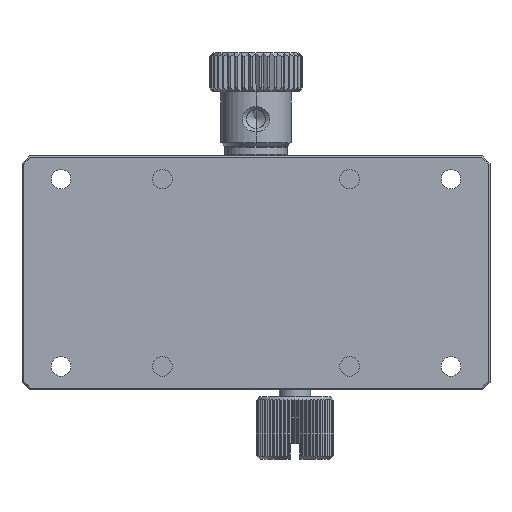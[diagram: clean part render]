
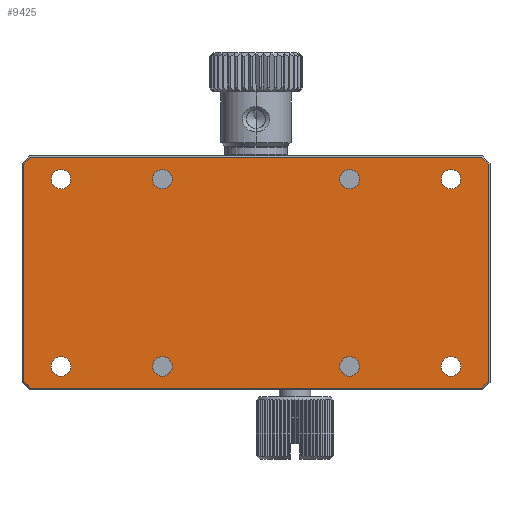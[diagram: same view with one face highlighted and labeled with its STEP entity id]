
A CAD part, front view. The second image highlights one B-rep face of the part: STEP entity #9425.
In plain terms, the highlighted planar face has unit normal (0, -1, 0).
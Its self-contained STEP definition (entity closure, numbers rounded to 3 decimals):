
#106=CARTESIAN_POINT('',(-12.,-11.3,-12.));
#107=DIRECTION('',(0.,1.,0.));
#108=DIRECTION('',(1.,0.,0.));
#109=AXIS2_PLACEMENT_3D('',#106,#107,#108);
#111=CARTESIAN_POINT('',(-12.,-11.3,-12.));
#112=DIRECTION('',(0.,1.,0.));
#113=DIRECTION('',(-1.,0.,0.));
#114=AXIS2_PLACEMENT_3D('',#111,#112,#113);
#116=CARTESIAN_POINT('',(12.,-11.3,-12.));
#117=DIRECTION('',(0.,1.,0.));
#118=DIRECTION('',(1.,0.,0.));
#119=AXIS2_PLACEMENT_3D('',#116,#117,#118);
#121=CARTESIAN_POINT('',(12.,-11.3,-12.));
#122=DIRECTION('',(0.,1.,0.));
#123=DIRECTION('',(-1.,0.,0.));
#124=AXIS2_PLACEMENT_3D('',#121,#122,#123);
#126=CARTESIAN_POINT('',(-12.,-11.3,12.));
#127=DIRECTION('',(0.,1.,0.));
#128=DIRECTION('',(1.,0.,0.));
#129=AXIS2_PLACEMENT_3D('',#126,#127,#128);
#131=CARTESIAN_POINT('',(-12.,-11.3,12.));
#132=DIRECTION('',(0.,1.,0.));
#133=DIRECTION('',(-1.,0.,0.));
#134=AXIS2_PLACEMENT_3D('',#131,#132,#133);
#136=CARTESIAN_POINT('',(12.,-11.3,12.));
#137=DIRECTION('',(0.,1.,0.));
#138=DIRECTION('',(1.,0.,0.));
#139=AXIS2_PLACEMENT_3D('',#136,#137,#138);
#141=CARTESIAN_POINT('',(12.,-11.3,12.));
#142=DIRECTION('',(0.,1.,0.));
#143=DIRECTION('',(-1.,0.,0.));
#144=AXIS2_PLACEMENT_3D('',#141,#142,#143);
#146=CARTESIAN_POINT('',(12.,-11.3,-25.));
#147=DIRECTION('',(0.,1.,0.));
#148=DIRECTION('',(0.,0.,1.));
#149=AXIS2_PLACEMENT_3D('',#146,#147,#148);
#151=CARTESIAN_POINT('',(12.,-11.3,-25.));
#152=DIRECTION('',(0.,1.,0.));
#153=DIRECTION('',(0.,0.,-1.));
#154=AXIS2_PLACEMENT_3D('',#151,#152,#153);
#156=CARTESIAN_POINT('',(12.,-11.3,25.));
#157=DIRECTION('',(0.,1.,0.));
#158=DIRECTION('',(0.,0.,1.));
#159=AXIS2_PLACEMENT_3D('',#156,#157,#158);
#161=CARTESIAN_POINT('',(12.,-11.3,25.));
#162=DIRECTION('',(0.,1.,0.));
#163=DIRECTION('',(0.,0.,-1.));
#164=AXIS2_PLACEMENT_3D('',#161,#162,#163);
#166=CARTESIAN_POINT('',(-12.,-11.3,-25.));
#167=DIRECTION('',(0.,1.,0.));
#168=DIRECTION('',(0.,0.,1.));
#169=AXIS2_PLACEMENT_3D('',#166,#167,#168);
#171=CARTESIAN_POINT('',(-12.,-11.3,-25.));
#172=DIRECTION('',(0.,1.,0.));
#173=DIRECTION('',(0.,0.,-1.));
#174=AXIS2_PLACEMENT_3D('',#171,#172,#173);
#176=CARTESIAN_POINT('',(-12.,-11.3,25.));
#177=DIRECTION('',(0.,1.,0.));
#178=DIRECTION('',(0.,0.,1.));
#179=AXIS2_PLACEMENT_3D('',#176,#177,#178);
#181=CARTESIAN_POINT('',(-12.,-11.3,25.));
#182=DIRECTION('',(0.,1.,0.));
#183=DIRECTION('',(0.,0.,-1.));
#184=AXIS2_PLACEMENT_3D('',#181,#182,#183);
#186=DIRECTION('',(-0.707,0.,-0.707));
#187=VECTOR('',#186,1.249);
#188=CARTESIAN_POINT('',(-13.917,-11.3,29.8));
#189=LINE('',#188,#187);
#190=DIRECTION('',(-1.,0.,0.));
#191=VECTOR('',#190,27.834);
#192=CARTESIAN_POINT('',(13.917,-11.3,29.8));
#193=LINE('',#192,#191);
#194=DIRECTION('',(-0.707,0.,0.707));
#195=VECTOR('',#194,1.249);
#196=CARTESIAN_POINT('',(14.8,-11.3,28.917));
#197=LINE('',#196,#195);
#198=DIRECTION('',(0.,0.,1.));
#199=VECTOR('',#198,57.834);
#200=CARTESIAN_POINT('',(14.8,-11.3,-28.917));
#201=LINE('',#200,#199);
#202=DIRECTION('',(0.707,0.,0.707));
#203=VECTOR('',#202,1.249);
#204=CARTESIAN_POINT('',(13.917,-11.3,-29.8));
#205=LINE('',#204,#203);
#206=DIRECTION('',(1.,0.,0.));
#207=VECTOR('',#206,27.834);
#208=CARTESIAN_POINT('',(-13.917,-11.3,-29.8));
#209=LINE('',#208,#207);
#210=DIRECTION('',(0.707,0.,-0.707));
#211=VECTOR('',#210,1.249);
#212=CARTESIAN_POINT('',(-14.8,-11.3,-28.917));
#213=LINE('',#212,#211);
#214=DIRECTION('',(0.,0.,-1.));
#215=VECTOR('',#214,57.834);
#216=CARTESIAN_POINT('',(-14.8,-11.3,28.917));
#217=LINE('',#216,#215);
#7622=CARTESIAN_POINT('',(-10.75,-11.3,-12.));
#7623=CARTESIAN_POINT('',(-13.25,-11.3,-12.));
#7624=VERTEX_POINT('',#7622);
#7625=VERTEX_POINT('',#7623);
#7626=CARTESIAN_POINT('',(13.25,-11.3,-12.));
#7627=CARTESIAN_POINT('',(10.75,-11.3,-12.));
#7628=VERTEX_POINT('',#7626);
#7629=VERTEX_POINT('',#7627);
#7630=CARTESIAN_POINT('',(-10.75,-11.3,12.));
#7631=CARTESIAN_POINT('',(-13.25,-11.3,12.));
#7632=VERTEX_POINT('',#7630);
#7633=VERTEX_POINT('',#7631);
#7634=CARTESIAN_POINT('',(13.25,-11.3,12.));
#7635=CARTESIAN_POINT('',(10.75,-11.3,12.));
#7636=VERTEX_POINT('',#7634);
#7637=VERTEX_POINT('',#7635);
#8074=CARTESIAN_POINT('',(-13.917,-11.3,29.8));
#8075=CARTESIAN_POINT('',(-14.8,-11.3,28.917));
#8076=VERTEX_POINT('',#8074);
#8077=VERTEX_POINT('',#8075);
#8080=CARTESIAN_POINT('',(-14.8,-11.3,-28.917));
#8081=VERTEX_POINT('',#8080);
#8082=CARTESIAN_POINT('',(-13.917,-11.3,-29.8));
#8083=VERTEX_POINT('',#8082);
#8088=CARTESIAN_POINT('',(13.917,-11.3,-29.8));
#8089=VERTEX_POINT('',#8088);
#8090=CARTESIAN_POINT('',(14.8,-11.3,-28.917));
#8091=VERTEX_POINT('',#8090);
#8096=CARTESIAN_POINT('',(14.8,-11.3,28.917));
#8097=VERTEX_POINT('',#8096);
#8098=CARTESIAN_POINT('',(13.917,-11.3,29.8));
#8099=VERTEX_POINT('',#8098);
#9014=CARTESIAN_POINT('',(12.,-11.3,-23.75));
#9015=CARTESIAN_POINT('',(12.,-11.3,-26.25));
#9016=VERTEX_POINT('',#9014);
#9017=VERTEX_POINT('',#9015);
#9018=CARTESIAN_POINT('',(12.,-11.3,26.25));
#9019=CARTESIAN_POINT('',(12.,-11.3,23.75));
#9020=VERTEX_POINT('',#9018);
#9021=VERTEX_POINT('',#9019);
#9022=CARTESIAN_POINT('',(-12.,-11.3,-23.75));
#9023=CARTESIAN_POINT('',(-12.,-11.3,-26.25));
#9024=VERTEX_POINT('',#9022);
#9025=VERTEX_POINT('',#9023);
#9026=CARTESIAN_POINT('',(-12.,-11.3,26.25));
#9027=CARTESIAN_POINT('',(-12.,-11.3,23.75));
#9028=VERTEX_POINT('',#9026);
#9029=VERTEX_POINT('',#9027);
#9356=CARTESIAN_POINT('',(0.,-11.3,0.));
#9357=DIRECTION('',(0.,1.,0.));
#9358=DIRECTION('',(1.,0.,0.));
#9359=AXIS2_PLACEMENT_3D('',#9356,#9357,#9358);
#9360=PLANE('',#9359);
#9362=ORIENTED_EDGE('',*,*,#9361,.F.);
#9363=ORIENTED_EDGE('',*,*,#9334,.F.);
#9364=ORIENTED_EDGE('',*,*,#9346,.F.);
#9366=ORIENTED_EDGE('',*,*,#9365,.F.);
#9368=ORIENTED_EDGE('',*,*,#9367,.F.);
#9370=ORIENTED_EDGE('',*,*,#9369,.F.);
#9372=ORIENTED_EDGE('',*,*,#9371,.F.);
#9374=ORIENTED_EDGE('',*,*,#9373,.F.);
#9375=EDGE_LOOP('',(#9362,#9363,#9364,#9366,#9368,#9370,#9372,#9374));
#9376=FACE_OUTER_BOUND('',#9375,.F.);
#9378=ORIENTED_EDGE('',*,*,#9377,.F.);
#9380=ORIENTED_EDGE('',*,*,#9379,.F.);
#9381=EDGE_LOOP('',(#9378,#9380));
#9382=FACE_BOUND('',#9381,.F.);
#9384=ORIENTED_EDGE('',*,*,#9383,.F.);
#9386=ORIENTED_EDGE('',*,*,#9385,.F.);
#9387=EDGE_LOOP('',(#9384,#9386));
#9388=FACE_BOUND('',#9387,.F.);
#9390=ORIENTED_EDGE('',*,*,#9389,.F.);
#9392=ORIENTED_EDGE('',*,*,#9391,.F.);
#9393=EDGE_LOOP('',(#9390,#9392));
#9394=FACE_BOUND('',#9393,.F.);
#9396=ORIENTED_EDGE('',*,*,#9395,.F.);
#9398=ORIENTED_EDGE('',*,*,#9397,.F.);
#9399=EDGE_LOOP('',(#9396,#9398));
#9400=FACE_BOUND('',#9399,.F.);
#9402=ORIENTED_EDGE('',*,*,#9401,.F.);
#9404=ORIENTED_EDGE('',*,*,#9403,.F.);
#9405=EDGE_LOOP('',(#9402,#9404));
#9406=FACE_BOUND('',#9405,.F.);
#9408=ORIENTED_EDGE('',*,*,#9407,.F.);
#9410=ORIENTED_EDGE('',*,*,#9409,.F.);
#9411=EDGE_LOOP('',(#9408,#9410));
#9412=FACE_BOUND('',#9411,.F.);
#9414=ORIENTED_EDGE('',*,*,#9413,.F.);
#9416=ORIENTED_EDGE('',*,*,#9415,.F.);
#9417=EDGE_LOOP('',(#9414,#9416));
#9418=FACE_BOUND('',#9417,.F.);
#9420=ORIENTED_EDGE('',*,*,#9419,.F.);
#9422=ORIENTED_EDGE('',*,*,#9421,.F.);
#9423=EDGE_LOOP('',(#9420,#9422));
#9424=FACE_BOUND('',#9423,.F.);
#9425=ADVANCED_FACE('',(#9376,#9382,#9388,#9394,#9400,#9406,#9412,#9418,#9424),
#9360,.F.);
#110=CIRCLE('',#109,1.25);
#115=CIRCLE('',#114,1.25);
#120=CIRCLE('',#119,1.25);
#125=CIRCLE('',#124,1.25);
#130=CIRCLE('',#129,1.25);
#135=CIRCLE('',#134,1.25);
#140=CIRCLE('',#139,1.25);
#145=CIRCLE('',#144,1.25);
#150=CIRCLE('',#149,1.25);
#155=CIRCLE('',#154,1.25);
#160=CIRCLE('',#159,1.25);
#165=CIRCLE('',#164,1.25);
#170=CIRCLE('',#169,1.25);
#175=CIRCLE('',#174,1.25);
#180=CIRCLE('',#179,1.25);
#185=CIRCLE('',#184,1.25);
#9334=EDGE_CURVE('',#8099,#8076,#193,.T.);
#9346=EDGE_CURVE('',#8097,#8099,#197,.T.);
#9361=EDGE_CURVE('',#8076,#8077,#189,.T.);
#9365=EDGE_CURVE('',#8091,#8097,#201,.T.);
#9367=EDGE_CURVE('',#8089,#8091,#205,.T.);
#9369=EDGE_CURVE('',#8083,#8089,#209,.T.);
#9371=EDGE_CURVE('',#8081,#8083,#213,.T.);
#9373=EDGE_CURVE('',#8077,#8081,#217,.T.);
#9377=EDGE_CURVE('',#7628,#7629,#120,.T.);
#9379=EDGE_CURVE('',#7629,#7628,#125,.T.);
#9383=EDGE_CURVE('',#7632,#7633,#130,.T.);
#9385=EDGE_CURVE('',#7633,#7632,#135,.T.);
#9389=EDGE_CURVE('',#7636,#7637,#140,.T.);
#9391=EDGE_CURVE('',#7637,#7636,#145,.T.);
#9395=EDGE_CURVE('',#9016,#9017,#150,.T.);
#9397=EDGE_CURVE('',#9017,#9016,#155,.T.);
#9401=EDGE_CURVE('',#9020,#9021,#160,.T.);
#9403=EDGE_CURVE('',#9021,#9020,#165,.T.);
#9407=EDGE_CURVE('',#9024,#9025,#170,.T.);
#9409=EDGE_CURVE('',#9025,#9024,#175,.T.);
#9413=EDGE_CURVE('',#9028,#9029,#180,.T.);
#9415=EDGE_CURVE('',#9029,#9028,#185,.T.);
#9419=EDGE_CURVE('',#7624,#7625,#110,.T.);
#9421=EDGE_CURVE('',#7625,#7624,#115,.T.);
